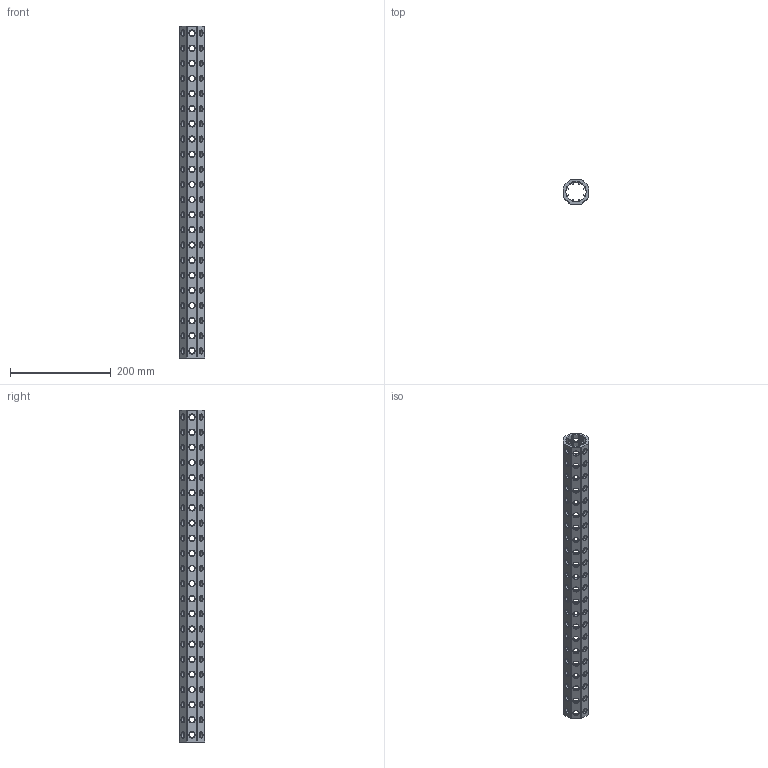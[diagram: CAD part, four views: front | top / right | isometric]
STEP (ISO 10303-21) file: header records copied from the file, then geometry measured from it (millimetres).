
FILE_DESCRIPTION(('CATIA V5 STEP Exchange'),'2;1');
FILE_NAME('U:\Room\唐宝山\EGT002\46-01-010251-01-EGT002-658.stp','2021-08-24T01:05:16+00:00',('none'),('none'),'CATIA Version 5 Release 21 GA (IN-10)','CATIA V5 STEP AP203','none');
FILE_SCHEMA(('CONFIG_CONTROL_DESIGN'));
Length unit declared in the file: millimetre
Products named in the file (1): 46-01-010251-01-EGT002-658
Bounding box: 50 x 50 x 658 mm (x, y, z)
Volume: 468643.8 mm3; surface area: 227149.1 mm2
Topology: 1 solids, 1 shells, 964 faces, 2666 edges, 1660 vertices
Faces by surface type: cone 528, cylinder 410, plane 26
Entity records: 39223 total; most frequent: CARTESIAN_POINT 15824, ORIENTED_EDGE 5332, DIRECTION 3757, EDGE_CURVE 2666, AXIS2_PLACEMENT_3D 1740, VERTEX_POINT 1660, EDGE_LOOP 1274, VECTOR 1054
